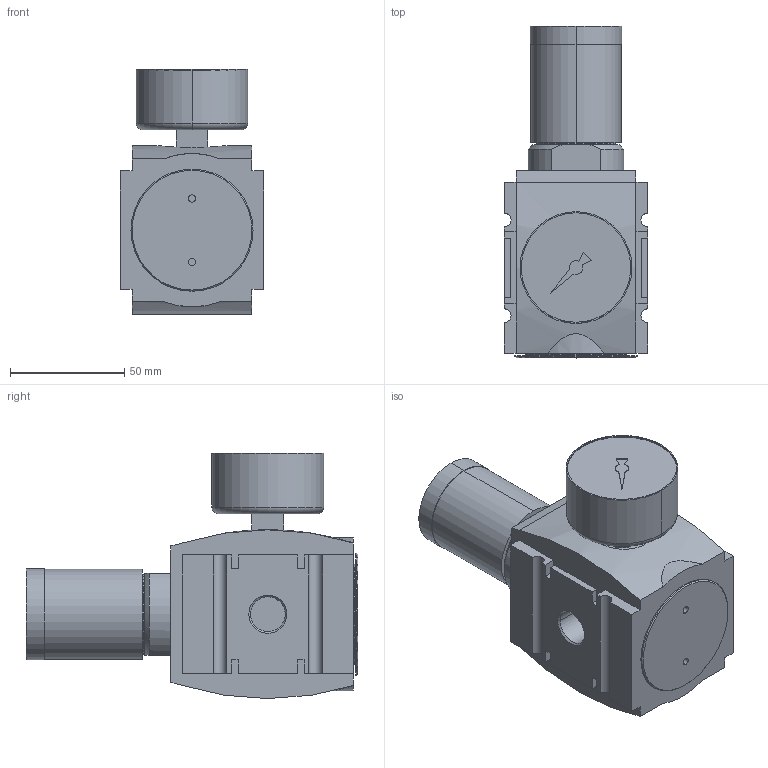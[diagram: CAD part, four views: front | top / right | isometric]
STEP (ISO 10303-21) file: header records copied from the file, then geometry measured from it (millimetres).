
FILE_DESCRIPTION((''),'2;1');
FILE_NAME('R412007107_ASM','2016-06-23T',('prr2cob'),(''),'PRO/ENGINEER BY PARAMETRIC TECHNOLOGY CORPORATION, 2012421','PRO/ENGINEER BY PARAMETRIC TECHNOLOGY CORPORATION, 2012421','');
FILE_SCHEMA(('CONFIG_CONTROL_DESIGN','SHAPE_APPEARANCE_LAYERS_GROUPS'));
Length unit declared in the file: millimetre
Products named in the file (3): R412007107; R412004417; R412007107_ASM
Assembly tree (2 placements, depth 2):
  R412007107_ASM
    R412007107
    R412004417
Bounding box: 63 x 145.5 x 107.5 mm (x, y, z)
Volume: 453179.8 mm3; surface area: 52194.3 mm2
Topology: 2 solids, 2 shells, 154 faces, 373 edges, 242 vertices
Faces by surface type: plane 86, cylinder 44, cone 16, torus 8
Entity records: 4833 total; most frequent: CARTESIAN_POINT 1020, DIRECTION 805, ORIENTED_EDGE 746, EDGE_CURVE 373, AXIS2_PLACEMENT_3D 281, VECTOR 243, LINE 243, VERTEX_POINT 242
